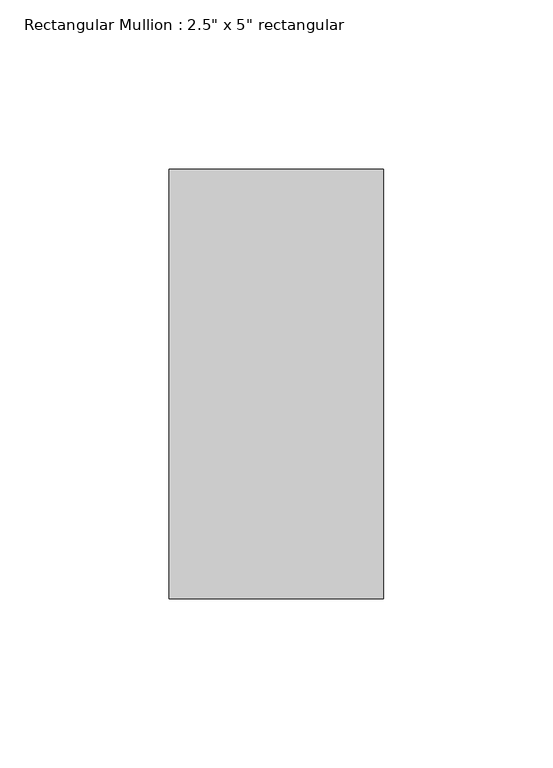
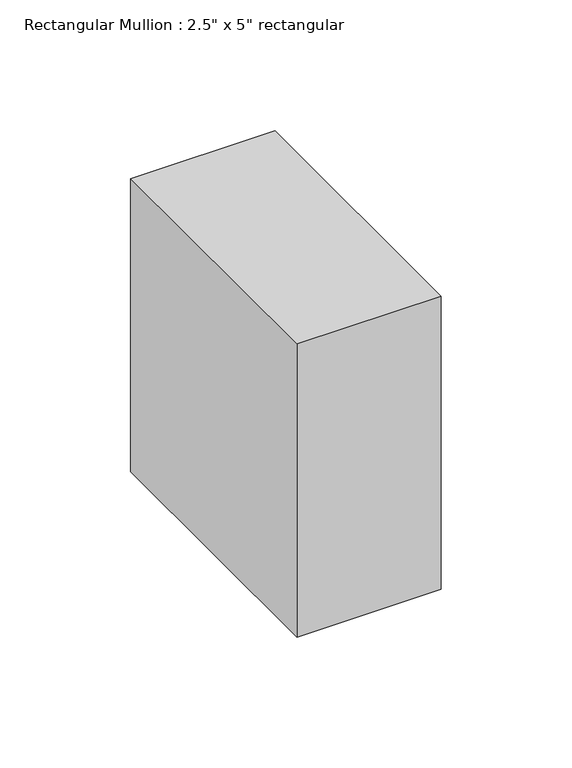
"""IFC4 building model written with IfcOpenShell, lengths in millimetres: member geometry."""

from ifc_helpers import new_model, si_unit, frame, origin, place, context, project, spatial, polyline, outline, extrude, source, transform, mapped, element, save


def member_8c690d98(model_context):
    return source(origin(), model_context, "Body", "SweptSolid", [
        extrude(outline(polyline([(0.0, 63.5), (0.0, -63.5), (-63.5, -63.5), (-63.5, 63.5), (0.0, 63.5)])), frame((0.0, 0.0, -136.525), z_axis=(0.0, 0.0, 1.0), x_axis=(1.0, 0.0, 0.0)), (0.0, 0.0, 1.0), 136.525),
    ])


if __name__ == "__main__":
    model = new_model("IFC4")
    model_context = context("Model", 3, world=origin())
    ifc_project = project(units=[si_unit("LENGTHUNIT", "METRE", prefix="MILLI")], contexts=[model_context])
    site = spatial("IfcSite", under=ifc_project)
    building = spatial("IfcBuilding", under=site)
    placement = place(None, origin())
    member_shape = member_8c690d98(model_context)
    element("IfcMember", 1, ObjectType="Rectangular Mullion : 2.5\" x 5\" rectangular", at=placement, inside=building, context=model_context, shape_type="MappedRepresentation", body=[
        mapped(member_shape, transform((0.0, 0.0, 0.0), x_axis=(1.0, 0.0, 0.0), y_axis=(0.0, 1.0, 0.0), z_axis=(0.0, 0.0, 1.0))),
    ])
    save(model, "model.ifc")
